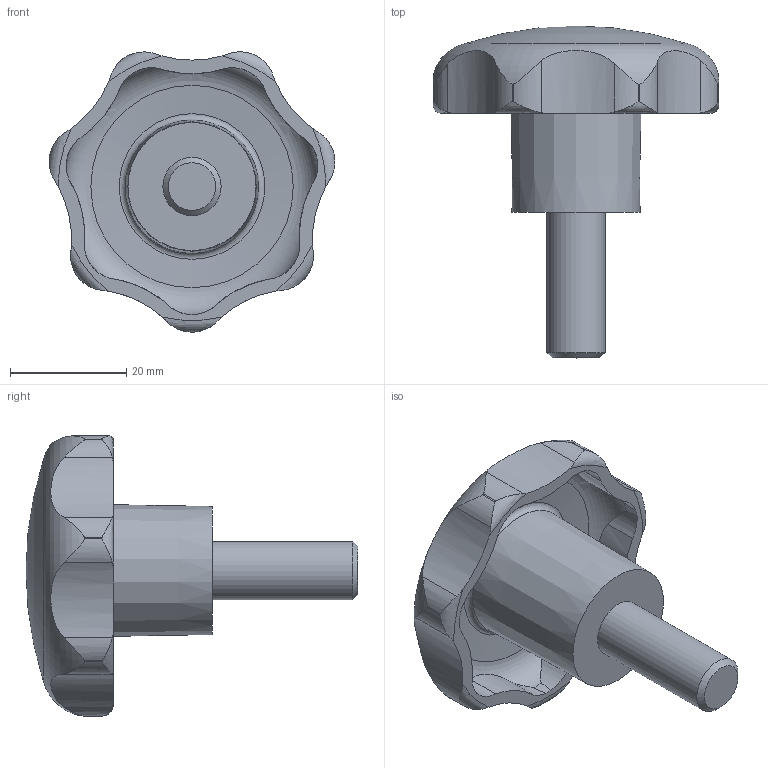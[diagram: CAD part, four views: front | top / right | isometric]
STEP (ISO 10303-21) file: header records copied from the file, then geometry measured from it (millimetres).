
FILE_DESCRIPTION( ( 'STEP AP203' ), '1' );
FILE_NAME( 'C:/Temp/Ganter_Step_05_03_2020/data/2_2/gn_6336_4/gn_6336_4_st/Star knob GN 6336.4-ST-50-M10-25.stp', '2020-03-05T12:07:36', ( 'License CC BY-ND 4.0' ), ( 'CADENAS' ), ' ', 'PARTsolutions', ' ' );
FILE_SCHEMA( ( 'CONFIG_CONTROL_DESIGN' ) );
Length unit declared in the file: millimetre
Products named in the file (1): _Star knob GN 6336.4-ST-50-M10-25
Bounding box: 49.04 x 57 x 48.12 mm (x, y, z)
Volume: 23111.4 mm3; surface area: 8234.7 mm2
Topology: 1 solids, 1 shells, 74 faces, 209 edges, 138 vertices
Faces by surface type: cylinder 50, torus 10, cone 10, plane 3, sphere 1
Full cylindrical faces by diameter (mm): 10 x1
Entity records: 3234 total; most frequent: CARTESIAN_POINT 1425, ORIENTED_EDGE 394, DIRECTION 334, EDGE_CURVE 197, AXIS2_PLACEMENT_3D 146, VERTEX_POINT 135, B_SPLINE_CURVE_WITH_KNOTS 84, EDGE_LOOP 83
